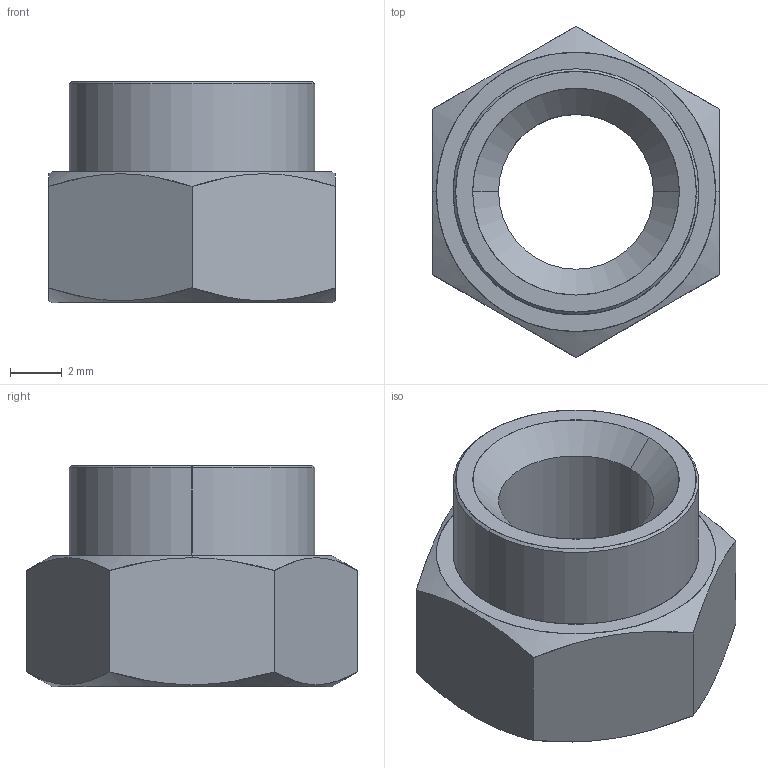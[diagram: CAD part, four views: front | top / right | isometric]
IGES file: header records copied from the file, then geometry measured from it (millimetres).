
Start section: SolidWorks IGES file using analytic representation for surfaces
Global section: file name: C:\Users\liam_\OneDrive\Desktop\Work\Mat Davis Pending 20181125\automotion\P SERIES\P0827.ZP_v2\P0827.ZP_v2_20181231_IGES\P0827.060-10G-ZP.igs; native system: SolidWorks 2017; preprocessor: SolidWorks 2017; author: liam_; date: 181231.110809; units: millimetre
Bounding box: 11.1 x 12.82 x 8.58 mm (x, y, z)
Surface area: 582.6 mm2 (no closed solid volume)
Topology: 0 solids, 0 shells, 23 faces, 400 edges, 400 vertices
Faces by surface type: revolution 14, bspline 9
